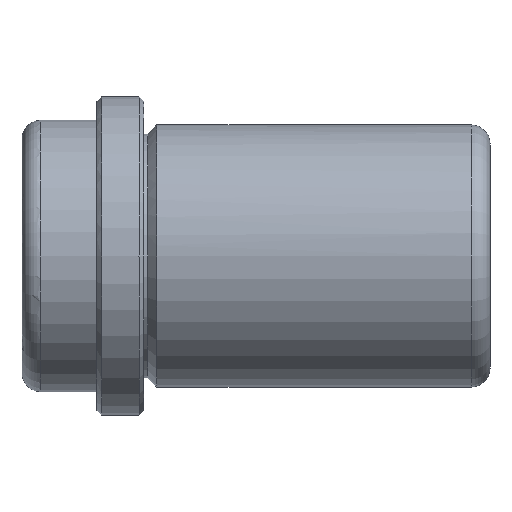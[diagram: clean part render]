
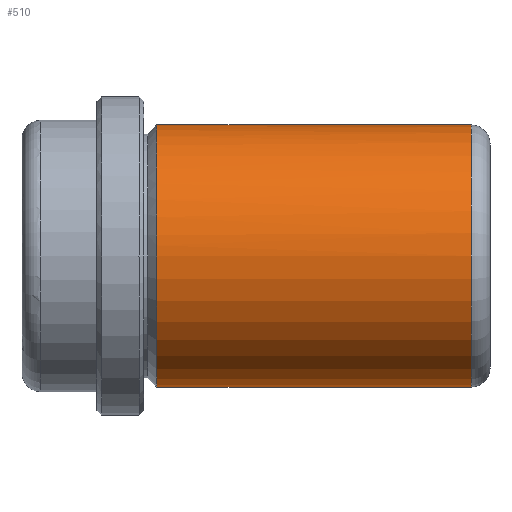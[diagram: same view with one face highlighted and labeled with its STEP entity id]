
A CAD part, front view. The second image highlights one B-rep face of the part: STEP entity #510.
In plain terms, the highlighted cylindrical face has radius 14 mm (diameter 28 mm), a partial arc.
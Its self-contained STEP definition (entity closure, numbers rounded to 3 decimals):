
#293=CARTESIAN_POINT('Line Origine',(37.,0.,14.)) ;
#297=CARTESIAN_POINT('Vertex',(35.,0.,14.)) ;
#299=CARTESIAN_POINT('Vertex',(1.414,0.,14.)) ;
#313=CARTESIAN_POINT('Vertex',(35.,0.,-14.)) ;
#316=CARTESIAN_POINT('Line Origine',(37.,0.,-14.)) ;
#320=CARTESIAN_POINT('Vertex',(1.414,0.,-14.)) ;
#470=CARTESIAN_POINT('Axis2P3D Location',(37.,0.,0.)) ;
#475=CARTESIAN_POINT('Axis2P3D Location',(35.,0.,0.)) ;
#479=CARTESIAN_POINT('Vertex',(35.,-14.,0.)) ;
#482=CARTESIAN_POINT('Axis2P3D Location',(35.,0.,0.)) ;
#488=CARTESIAN_POINT('Control Point',(1.414,0.,14.)) ;
#489=CARTESIAN_POINT('Control Point',(1.414,-4.398,14.)) ;
#490=CARTESIAN_POINT('Control Point',(1.414,-8.801,12.278)) ;
#491=CARTESIAN_POINT('Control Point',(1.414,-12.278,8.801)) ;
#492=CARTESIAN_POINT('Control Point',(1.414,-14.,4.398)) ;
#493=CARTESIAN_POINT('Control Point',(1.414,-14.,0.)) ;
#494=CARTESIAN_POINT('Vertex',(1.414,-14.,0.)) ;
#497=CARTESIAN_POINT('Axis2P3D Location',(1.414,0.,0.)) ;
#294=DIRECTION('Vector Direction',(-1.,0.,0.)) ;
#317=DIRECTION('Vector Direction',(-1.,0.,0.)) ;
#471=DIRECTION('Axis2P3D Direction',(-1.,-0.,-0.)) ;
#472=DIRECTION('Axis2P3D XDirection',(0.,0.,-1.)) ;
#476=DIRECTION('Axis2P3D Direction',(-1.,-0.,-0.)) ;
#483=DIRECTION('Axis2P3D Direction',(-1.,-0.,-0.)) ;
#498=DIRECTION('Axis2P3D Direction',(-1.,-0.,-0.)) ;
#473=AXIS2_PLACEMENT_3D('Cylinder Axis2P3D',#470,#471,#472) ;
#477=AXIS2_PLACEMENT_3D('Circle Axis2P3D',#475,#476,$) ;
#484=AXIS2_PLACEMENT_3D('Circle Axis2P3D',#482,#483,$) ;
#499=AXIS2_PLACEMENT_3D('Circle Axis2P3D',#497,#498,$) ;
#503=ORIENTED_EDGE('',*,*,#322,.T.) ;
#504=ORIENTED_EDGE('',*,*,#481,.F.) ;
#505=ORIENTED_EDGE('',*,*,#486,.F.) ;
#506=ORIENTED_EDGE('',*,*,#301,.T.) ;
#507=ORIENTED_EDGE('',*,*,#496,.T.) ;
#508=ORIENTED_EDGE('',*,*,#501,.T.) ;
#295=VECTOR('Line Direction',#294,1.) ;
#318=VECTOR('Line Direction',#317,1.) ;
#510=ADVANCED_FACE('CF 632 18 x 50',(#509),#474,.T.) ;
#487=B_SPLINE_CURVE_WITH_KNOTS('',5,(#488,#489,#490,#491,#492,#493),.UNSPECIFIED.,.F.,.U.,(6,6),(-10.996,10.996),.UNSPECIFIED.) ;
#478=CIRCLE('generated circle',#477,14.) ;
#485=CIRCLE('generated circle',#484,14.) ;
#500=CIRCLE('generated circle',#499,14.) ;
#474=CYLINDRICAL_SURFACE('generated cylinder',#473,14.) ;
#301=EDGE_CURVE('',#298,#300,#296,.T.) ;
#322=EDGE_CURVE('',#321,#314,#319,.F.) ;
#481=EDGE_CURVE('',#480,#314,#478,.F.) ;
#486=EDGE_CURVE('',#298,#480,#485,.F.) ;
#496=EDGE_CURVE('',#300,#495,#487,.T.) ;
#501=EDGE_CURVE('',#495,#321,#500,.F.) ;
#502=EDGE_LOOP('',(#503,#504,#505,#506,#507,#508)) ;
#509=FACE_OUTER_BOUND('',#502,.T.) ;
#296=LINE('Line',#293,#295) ;
#319=LINE('Line',#316,#318) ;
#298=VERTEX_POINT('',#297) ;
#300=VERTEX_POINT('',#299) ;
#314=VERTEX_POINT('',#313) ;
#321=VERTEX_POINT('',#320) ;
#480=VERTEX_POINT('',#479) ;
#495=VERTEX_POINT('',#494) ;
